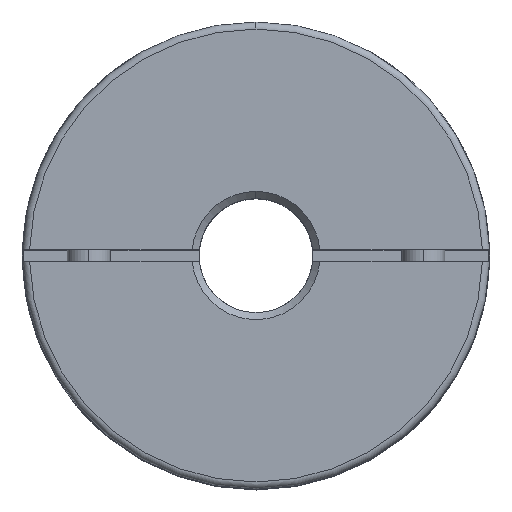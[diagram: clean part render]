
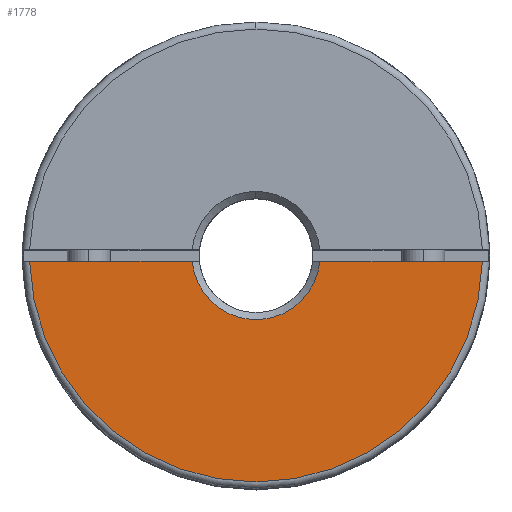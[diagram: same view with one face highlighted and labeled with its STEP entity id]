
A CAD part, top view. The second image highlights one B-rep face of the part: STEP entity #1778.
In plain terms, the highlighted planar face has unit normal (0, 0, 1).
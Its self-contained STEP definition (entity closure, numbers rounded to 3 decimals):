
#755 = LINE ( 'NONE', #3996, #810 ) ;
#773 = LINE ( 'NONE', #4104, #792 ) ;
#792 = VECTOR ( 'NONE', #4105, 1000. ) ;
#801 = CIRCLE ( 'NONE', #5795, 15.9 ) ;
#810 = VECTOR ( 'NONE', #4001, 1000. ) ;
#828 = CIRCLE ( 'NONE', #5798, 4.5 ) ;
#1610 = AXIS2_PLACEMENT_3D ( 'NONE', #6277, #6282, #6283 ) ;
#1778 = ADVANCED_FACE ( 'NONE', ( #5025 ), #6279, .T. ) ;
#2062 = VERTEX_POINT ( 'NONE', #3816 ) ;
#2099 = VERTEX_POINT ( 'NONE', #3851 ) ;
#2139 = VERTEX_POINT ( 'NONE', #3891 ) ;
#2444 = EDGE_CURVE ( 'NONE', #2099, #2062, #755, .T. ) ;
#2450 = VERTEX_POINT ( 'NONE', #4004 ) ;
#2564 = EDGE_CURVE ( 'NONE', #2099, #2450, #801, .T. ) ;
#2571 = EDGE_CURVE ( 'NONE', #2139, #2450, #773, .T. ) ;
#2582 = EDGE_CURVE ( 'NONE', #2139, #2062, #828, .T. ) ;
#2814 = ORIENTED_EDGE ( 'NONE', *, *, #2582, .T. ) ;
#2815 = ORIENTED_EDGE ( 'NONE', *, *, #2571, .F. ) ;
#2816 = ORIENTED_EDGE ( 'NONE', *, *, #2564, .T. ) ;
#2817 = ORIENTED_EDGE ( 'NONE', *, *, #2444, .F. ) ;
#3816 = CARTESIAN_POINT ( 'NONE',  ( -4.482, -0.4, 22.041 ) ) ;
#3851 = CARTESIAN_POINT ( 'NONE',  ( -15.895, -0.4, 22.041 ) ) ;
#3891 = CARTESIAN_POINT ( 'NONE',  ( 4.482, -0.4, 22.041 ) ) ;
#3996 = CARTESIAN_POINT ( 'NONE',  ( -16.4, -0.4, 22.041 ) ) ;
#4001 = DIRECTION ( 'NONE',  ( 1., 0., 0. ) ) ;
#4004 = CARTESIAN_POINT ( 'NONE',  ( 15.895, -0.4, 22.041 ) ) ;
#4101 = CARTESIAN_POINT ( 'NONE',  ( 0., 0., 22.041 ) ) ;
#4102 = DIRECTION ( 'NONE',  ( 0., 0., 1. ) ) ;
#4103 = DIRECTION ( 'NONE',  ( 0., 1., 0. ) ) ;
#4104 = CARTESIAN_POINT ( 'NONE',  ( -16.4, -0.4, 22.041 ) ) ;
#4105 = DIRECTION ( 'NONE',  ( 1., 0., 0. ) ) ;
#4122 = CARTESIAN_POINT ( 'NONE',  ( 0., 0., 22.041 ) ) ;
#4123 = DIRECTION ( 'NONE',  ( 0., 0., -1. ) ) ;
#4124 = DIRECTION ( 'NONE',  ( 0., 1., 0. ) ) ;
#5025 = FACE_OUTER_BOUND ( 'NONE', #6488, .T. ) ;
#5795 = AXIS2_PLACEMENT_3D ( 'NONE', #4101, #4102, #4103 ) ;
#5798 = AXIS2_PLACEMENT_3D ( 'NONE', #4122, #4123, #4124 ) ;
#6277 = CARTESIAN_POINT ( 'NONE',  ( 0., 0., 22.041 ) ) ;
#6279 = PLANE ( 'NONE',  #1610 ) ;
#6282 = DIRECTION ( 'NONE',  ( 0., 0., 1. ) ) ;
#6283 = DIRECTION ( 'NONE',  ( 0., 1., 0. ) ) ;
#6488 = EDGE_LOOP ( 'NONE', ( #2817, #2816, #2815, #2814 ) ) ;
